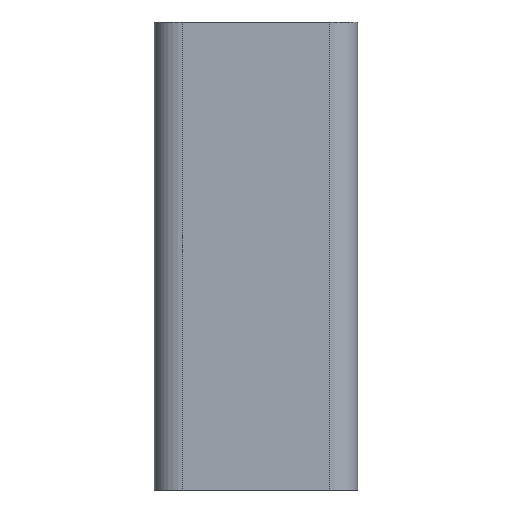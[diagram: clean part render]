
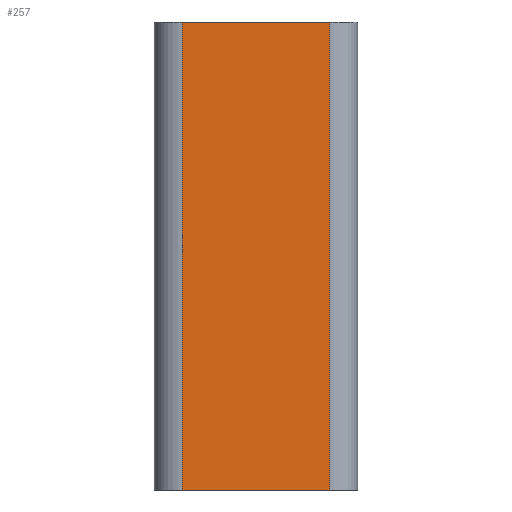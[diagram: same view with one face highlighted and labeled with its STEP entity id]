
A CAD part, front view. The second image highlights one B-rep face of the part: STEP entity #257.
In plain terms, the highlighted planar face has unit normal (0, -1, 0).
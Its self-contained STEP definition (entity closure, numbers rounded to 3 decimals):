
#17=PLANE('',#295);
#29=FACE_OUTER_BOUND('',#43,.T.);
#43=EDGE_LOOP('',(#193,#194,#195,#196));
#54=LINE('',#392,#82);
#63=LINE('',#416,#91);
#64=LINE('',#418,#92);
#65=LINE('',#419,#93);
#82=VECTOR('',#318,50.);
#91=VECTOR('',#339,15.709);
#92=VECTOR('',#340,15.709);
#93=VECTOR('',#341,50.);
#118=VERTEX_POINT('',#386);
#120=VERTEX_POINT('',#390);
#129=VERTEX_POINT('',#415);
#130=VERTEX_POINT('',#417);
#144=EDGE_CURVE('',#118,#120,#54,.T.);
#155=EDGE_CURVE('',#118,#129,#63,.T.);
#156=EDGE_CURVE('',#120,#130,#64,.T.);
#157=EDGE_CURVE('',#130,#129,#65,.T.);
#193=ORIENTED_EDGE('',*,*,#155,.F.);
#194=ORIENTED_EDGE('',*,*,#144,.T.);
#195=ORIENTED_EDGE('',*,*,#156,.T.);
#196=ORIENTED_EDGE('',*,*,#157,.T.);
#257=ADVANCED_FACE('',(#29),#17,.F.);
#295=AXIS2_PLACEMENT_3D('',#414,#337,#338);
#318=DIRECTION('',(0.,0.,-1.));
#337=DIRECTION('center_axis',(0.,1.,0.));
#338=DIRECTION('ref_axis',(0.,0.,1.));
#339=DIRECTION('',(1.,0.,0.));
#340=DIRECTION('',(1.,0.,0.));
#341=DIRECTION('',(0.,0.,1.));
#386=CARTESIAN_POINT('',(-7.855,0.,25.));
#390=CARTESIAN_POINT('',(-7.855,0.,-25.));
#392=CARTESIAN_POINT('',(-7.855,0.,25.));
#414=CARTESIAN_POINT('Origin',(-11.43,0.,25.));
#415=CARTESIAN_POINT('',(7.855,0.,25.));
#416=CARTESIAN_POINT('',(-7.855,0.,25.));
#417=CARTESIAN_POINT('',(7.855,0.,-25.));
#418=CARTESIAN_POINT('',(-7.855,0.,-25.));
#419=CARTESIAN_POINT('',(7.855,0.,-25.));
